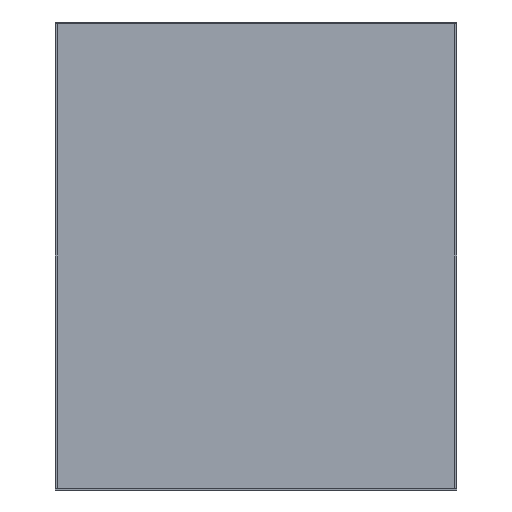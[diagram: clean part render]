
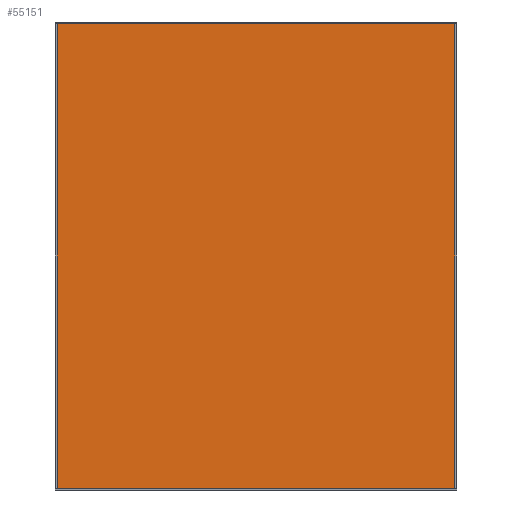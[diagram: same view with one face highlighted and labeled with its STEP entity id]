
A CAD part, front view. The second image highlights one B-rep face of the part: STEP entity #55151.
In plain terms, the highlighted planar face has unit normal (0, -1, 0).
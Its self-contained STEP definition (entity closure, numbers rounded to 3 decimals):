
#54935 = EDGE_CURVE('',#54936,#54938,#54940,.T.);
#54936 = VERTEX_POINT('',#54937);
#54937 = CARTESIAN_POINT('',(-0.155,-0.096,0.002)
  );
#54938 = VERTEX_POINT('',#54939);
#54939 = CARTESIAN_POINT('',(-0.155,-0.096,
    0.364));
#54940 = SURFACE_CURVE('',#54941,(#54945,#54957),.PCURVE_S1.);
#54941 = LINE('',#54942,#54943);
#54942 = CARTESIAN_POINT('',(-0.155,-0.096,0.002)
  );
#54943 = VECTOR('',#54944,1.);
#54944 = DIRECTION('',(0.,0.,1.));
#54945 = PCURVE('',#54946,#54951);
#54946 = PLANE('',#54947);
#54947 = AXIS2_PLACEMENT_3D('',#54948,#54949,#54950);
#54948 = CARTESIAN_POINT('',(-0.155,-0.096,0.002)
  );
#54949 = DIRECTION('',(1.,0.,0.));
#54950 = DIRECTION('',(0.,0.,1.));
#54951 = DEFINITIONAL_REPRESENTATION('',(#54952),#54956);
#54952 = LINE('',#54953,#54954);
#54953 = CARTESIAN_POINT('',(0.,0.));
#54954 = VECTOR('',#54955,1.);
#54955 = DIRECTION('',(1.,0.));
#54956 = ( GEOMETRIC_REPRESENTATION_CONTEXT(2) 
PARAMETRIC_REPRESENTATION_CONTEXT() REPRESENTATION_CONTEXT('2D SPACE',''
  ) );
#54957 = PCURVE('',#54958,#54963);
#54958 = PLANE('',#54959);
#54959 = AXIS2_PLACEMENT_3D('',#54960,#54961,#54962);
#54960 = CARTESIAN_POINT('',(-0.155,-0.096,0.002)
  );
#54961 = DIRECTION('',(0.,1.,0.));
#54962 = DIRECTION('',(0.,0.,1.));
#54963 = DEFINITIONAL_REPRESENTATION('',(#54964),#54968);
#54964 = LINE('',#54965,#54966);
#54965 = CARTESIAN_POINT('',(0.,0.));
#54966 = VECTOR('',#54967,1.);
#54967 = DIRECTION('',(1.,0.));
#54968 = ( GEOMETRIC_REPRESENTATION_CONTEXT(2) 
PARAMETRIC_REPRESENTATION_CONTEXT() REPRESENTATION_CONTEXT('2D SPACE',''
  ) );
#54986 = PLANE('',#54987);
#54987 = AXIS2_PLACEMENT_3D('',#54988,#54989,#54990);
#54988 = CARTESIAN_POINT('',(-0.155,-0.096,0.002)
  );
#54989 = DIRECTION('',(0.,0.,1.));
#54990 = DIRECTION('',(1.,0.,0.));
#55040 = PLANE('',#55041);
#55041 = AXIS2_PLACEMENT_3D('',#55042,#55043,#55044);
#55042 = CARTESIAN_POINT('',(-0.155,-0.096,
    0.364));
#55043 = DIRECTION('',(0.,0.,1.));
#55044 = DIRECTION('',(1.,0.,0.));
#55055 = EDGE_CURVE('',#55056,#55058,#55060,.T.);
#55056 = VERTEX_POINT('',#55057);
#55057 = CARTESIAN_POINT('',(0.155,-0.096,0.002)
  );
#55058 = VERTEX_POINT('',#55059);
#55059 = CARTESIAN_POINT('',(0.155,-0.096,
    0.364));
#55060 = SURFACE_CURVE('',#55061,(#55065,#55077),.PCURVE_S1.);
#55061 = LINE('',#55062,#55063);
#55062 = CARTESIAN_POINT('',(0.155,-0.096,0.002)
  );
#55063 = VECTOR('',#55064,1.);
#55064 = DIRECTION('',(0.,0.,1.));
#55065 = PCURVE('',#55066,#55071);
#55066 = PLANE('',#55067);
#55067 = AXIS2_PLACEMENT_3D('',#55068,#55069,#55070);
#55068 = CARTESIAN_POINT('',(0.155,-0.096,0.002)
  );
#55069 = DIRECTION('',(1.,0.,0.));
#55070 = DIRECTION('',(0.,0.,1.));
#55071 = DEFINITIONAL_REPRESENTATION('',(#55072),#55076);
#55072 = LINE('',#55073,#55074);
#55073 = CARTESIAN_POINT('',(0.,0.));
#55074 = VECTOR('',#55075,1.);
#55075 = DIRECTION('',(1.,0.));
#55076 = ( GEOMETRIC_REPRESENTATION_CONTEXT(2) 
PARAMETRIC_REPRESENTATION_CONTEXT() REPRESENTATION_CONTEXT('2D SPACE',''
  ) );
#55077 = PCURVE('',#54958,#55078);
#55078 = DEFINITIONAL_REPRESENTATION('',(#55079),#55083);
#55079 = LINE('',#55080,#55081);
#55080 = CARTESIAN_POINT('',(0.,0.31));
#55081 = VECTOR('',#55082,1.);
#55082 = DIRECTION('',(1.,0.));
#55083 = ( GEOMETRIC_REPRESENTATION_CONTEXT(2) 
PARAMETRIC_REPRESENTATION_CONTEXT() REPRESENTATION_CONTEXT('2D SPACE',''
  ) );
#55151 = ADVANCED_FACE('',(#55152),#54958,.F.);
#55152 = FACE_BOUND('',#55153,.F.);
#55153 = EDGE_LOOP('',(#55154,#55175,#55176,#55197));
#55154 = ORIENTED_EDGE('',*,*,#55155,.F.);
#55155 = EDGE_CURVE('',#54936,#55056,#55156,.T.);
#55156 = SURFACE_CURVE('',#55157,(#55161,#55168),.PCURVE_S1.);
#55157 = LINE('',#55158,#55159);
#55158 = CARTESIAN_POINT('',(-0.155,-0.096,0.002)
  );
#55159 = VECTOR('',#55160,1.);
#55160 = DIRECTION('',(1.,0.,0.));
#55161 = PCURVE('',#54958,#55162);
#55162 = DEFINITIONAL_REPRESENTATION('',(#55163),#55167);
#55163 = LINE('',#55164,#55165);
#55164 = CARTESIAN_POINT('',(0.,0.));
#55165 = VECTOR('',#55166,1.);
#55166 = DIRECTION('',(0.,1.));
#55167 = ( GEOMETRIC_REPRESENTATION_CONTEXT(2) 
PARAMETRIC_REPRESENTATION_CONTEXT() REPRESENTATION_CONTEXT('2D SPACE',''
  ) );
#55168 = PCURVE('',#54986,#55169);
#55169 = DEFINITIONAL_REPRESENTATION('',(#55170),#55174);
#55170 = LINE('',#55171,#55172);
#55171 = CARTESIAN_POINT('',(0.,0.));
#55172 = VECTOR('',#55173,1.);
#55173 = DIRECTION('',(1.,0.));
#55174 = ( GEOMETRIC_REPRESENTATION_CONTEXT(2) 
PARAMETRIC_REPRESENTATION_CONTEXT() REPRESENTATION_CONTEXT('2D SPACE',''
  ) );
#55175 = ORIENTED_EDGE('',*,*,#54935,.T.);
#55176 = ORIENTED_EDGE('',*,*,#55177,.T.);
#55177 = EDGE_CURVE('',#54938,#55058,#55178,.T.);
#55178 = SURFACE_CURVE('',#55179,(#55183,#55190),.PCURVE_S1.);
#55179 = LINE('',#55180,#55181);
#55180 = CARTESIAN_POINT('',(-0.155,-0.096,
    0.364));
#55181 = VECTOR('',#55182,1.);
#55182 = DIRECTION('',(1.,0.,0.));
#55183 = PCURVE('',#54958,#55184);
#55184 = DEFINITIONAL_REPRESENTATION('',(#55185),#55189);
#55185 = LINE('',#55186,#55187);
#55186 = CARTESIAN_POINT('',(0.362,0.));
#55187 = VECTOR('',#55188,1.);
#55188 = DIRECTION('',(0.,1.));
#55189 = ( GEOMETRIC_REPRESENTATION_CONTEXT(2) 
PARAMETRIC_REPRESENTATION_CONTEXT() REPRESENTATION_CONTEXT('2D SPACE',''
  ) );
#55190 = PCURVE('',#55040,#55191);
#55191 = DEFINITIONAL_REPRESENTATION('',(#55192),#55196);
#55192 = LINE('',#55193,#55194);
#55193 = CARTESIAN_POINT('',(0.,0.));
#55194 = VECTOR('',#55195,1.);
#55195 = DIRECTION('',(1.,0.));
#55196 = ( GEOMETRIC_REPRESENTATION_CONTEXT(2) 
PARAMETRIC_REPRESENTATION_CONTEXT() REPRESENTATION_CONTEXT('2D SPACE',''
  ) );
#55197 = ORIENTED_EDGE('',*,*,#55055,.F.);
